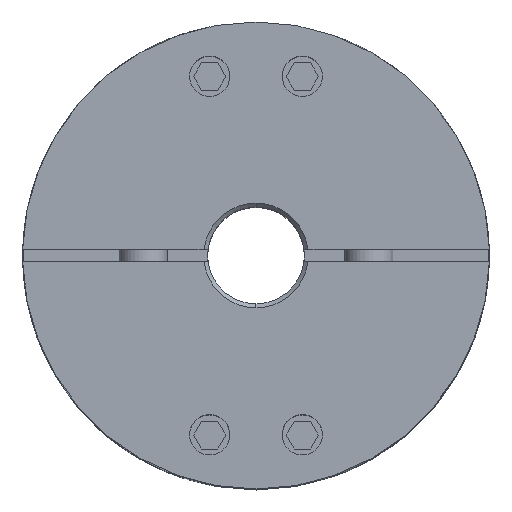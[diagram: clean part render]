
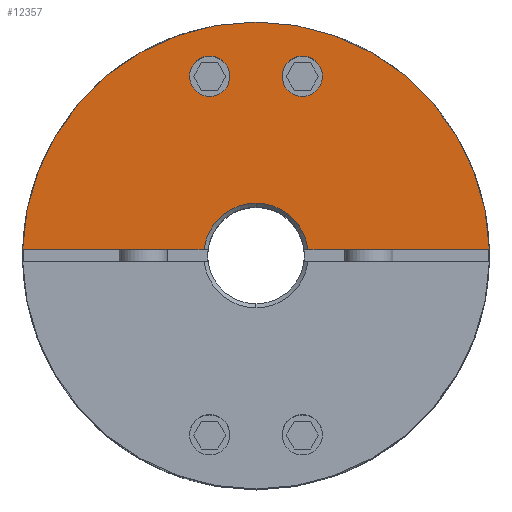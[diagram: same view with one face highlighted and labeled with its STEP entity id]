
A CAD part, top view. The second image highlights one B-rep face of the part: STEP entity #12357.
In plain terms, the highlighted planar face has unit normal (0, 0, 1).
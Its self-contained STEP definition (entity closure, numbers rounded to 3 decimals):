
#4825=CARTESIAN_POINT('',(5.759,24.767,35.75));
#4826=VERTEX_POINT('',#4825);
#4835=CARTESIAN_POINT('',(5.759,19.767,35.75));
#4836=VERTEX_POINT('',#4835);
#4837=CARTESIAN_POINT('',(5.759,22.267,35.75));
#4838=DIRECTION('',(0.0,0.0,-1.0));
#4839=DIRECTION('',(0.0,1.0,0.0));
#4840=AXIS2_PLACEMENT_3D('',#4837,#4838,#4839);
#4841=CIRCLE('',#4840,2.5);
#4842=EDGE_CURVE('',#4836,#4826,#4841,.T.);
#4867=CARTESIAN_POINT('',(-5.759,24.767,35.75));
#4868=VERTEX_POINT('',#4867);
#4877=CARTESIAN_POINT('',(-5.759,19.767,35.75));
#4878=VERTEX_POINT('',#4877);
#4879=CARTESIAN_POINT('',(-5.759,22.267,35.75));
#4880=DIRECTION('',(0.0,0.0,-1.0));
#4881=DIRECTION('',(0.0,1.0,0.0));
#4882=AXIS2_PLACEMENT_3D('',#4879,#4880,#4881);
#4883=CIRCLE('',#4882,2.5);
#4884=EDGE_CURVE('',#4878,#4868,#4883,.T.);
#5121=CARTESIAN_POINT('',(0.,29.0,35.75));
#5122=VERTEX_POINT('',#5121);
#5270=CARTESIAN_POINT('',(-28.99,0.75,35.75));
#5271=VERTEX_POINT('',#5270);
#5278=CARTESIAN_POINT('',(0.,0.0,35.75));
#5279=DIRECTION('',(0.0,0.0,-1.0));
#5280=DIRECTION('',(0.0,1.0,0.0));
#5281=AXIS2_PLACEMENT_3D('',#5278,#5279,#5280);
#5282=CIRCLE('',#5281,29.0);
#5283=EDGE_CURVE('',#5271,#5122,#5282,.T.);
#5455=CARTESIAN_POINT('',(0.,6.5,35.75));
#5456=VERTEX_POINT('',#5455);
#5472=CARTESIAN_POINT('',(6.457,0.75,35.75));
#5473=VERTEX_POINT('',#5472);
#5487=CARTESIAN_POINT('',(0.,0.0,35.75));
#5488=DIRECTION('',(0.0,0.0,1.0));
#5489=DIRECTION('',(0.0,1.0,0.0));
#5490=AXIS2_PLACEMENT_3D('',#5487,#5488,#5489);
#5491=CIRCLE('',#5490,6.5);
#5492=EDGE_CURVE('',#5473,#5456,#5491,.T.);
#11863=CARTESIAN_POINT('',(-6.457,0.75,35.75));
#11864=VERTEX_POINT('',#11863);
#11865=CARTESIAN_POINT('',(0.,0.0,35.75));
#11866=DIRECTION('',(0.0,0.0,1.0));
#11867=DIRECTION('',(0.0,1.0,0.0));
#11868=AXIS2_PLACEMENT_3D('',#11865,#11866,#11867);
#11869=CIRCLE('',#11868,6.5);
#11870=EDGE_CURVE('',#5456,#11864,#11869,.T.);
#11895=CARTESIAN_POINT('',(-28.99,0.75,35.75));
#11896=DIRECTION('',(1.0,0.0,0.0));
#11897=VECTOR('',#11896,22.534);
#11898=LINE('',#11895,#11897);
#11899=EDGE_CURVE('',#5271,#11864,#11898,.T.);
#11931=CARTESIAN_POINT('',(28.99,0.75,35.75));
#11932=VERTEX_POINT('',#11931);
#11939=CARTESIAN_POINT('',(6.457,0.75,35.75));
#11940=DIRECTION('',(1.0,0.0,0.0));
#11941=VECTOR('',#11940,22.534);
#11942=LINE('',#11939,#11941);
#11943=EDGE_CURVE('',#5473,#11932,#11942,.T.);
#12058=CARTESIAN_POINT('',(0.,0.0,35.75));
#12059=DIRECTION('',(0.0,0.0,-1.0));
#12060=DIRECTION('',(0.0,1.0,0.0));
#12061=AXIS2_PLACEMENT_3D('',#12058,#12059,#12060);
#12062=CIRCLE('',#12061,29.0);
#12063=EDGE_CURVE('',#5122,#11932,#12062,.T.);
#12296=CARTESIAN_POINT('',(-5.759,22.267,35.75));
#12297=DIRECTION('',(0.0,0.0,-1.0));
#12298=DIRECTION('',(0.0,1.0,0.0));
#12299=AXIS2_PLACEMENT_3D('',#12296,#12297,#12298);
#12300=CIRCLE('',#12299,2.5);
#12301=EDGE_CURVE('',#4868,#4878,#12300,.T.);
#12314=CARTESIAN_POINT('',(5.759,22.267,35.75));
#12315=DIRECTION('',(0.0,0.0,-1.0));
#12316=DIRECTION('',(0.0,1.0,0.0));
#12317=AXIS2_PLACEMENT_3D('',#12314,#12315,#12316);
#12318=CIRCLE('',#12317,2.5);
#12319=EDGE_CURVE('',#4826,#4836,#12318,.T.);
#12336=CARTESIAN_POINT('',(0.,2.636,35.75));
#12337=DIRECTION('',(0.0,0.0,1.0));
#12338=DIRECTION('',(0.0,1.0,0.0));
#12339=AXIS2_PLACEMENT_3D('',#12336,#12337,#12338);
#12340=PLANE('',#12339);
#12341=ORIENTED_EDGE('',*,*,#5492,.F.);
#12342=ORIENTED_EDGE('',*,*,#11943,.T.);
#12343=ORIENTED_EDGE('',*,*,#12063,.F.);
#12344=ORIENTED_EDGE('',*,*,#5283,.F.);
#12345=ORIENTED_EDGE('',*,*,#11899,.T.);
#12346=ORIENTED_EDGE('',*,*,#11870,.F.);
#12347=EDGE_LOOP('',(#12341,#12342,#12343,#12344,#12345,#12346));
#12348=FACE_OUTER_BOUND('',#12347,.T.);
#12349=ORIENTED_EDGE('',*,*,#12301,.T.);
#12350=ORIENTED_EDGE('',*,*,#4884,.T.);
#12351=EDGE_LOOP('',(#12349,#12350));
#12352=FACE_BOUND('',#12351,.T.);
#12353=ORIENTED_EDGE('',*,*,#12319,.T.);
#12354=ORIENTED_EDGE('',*,*,#4842,.T.);
#12355=EDGE_LOOP('',(#12353,#12354));
#12356=FACE_BOUND('',#12355,.T.);
#12357=ADVANCED_FACE('',(#12348,#12352,#12356),#12340,.T.);
